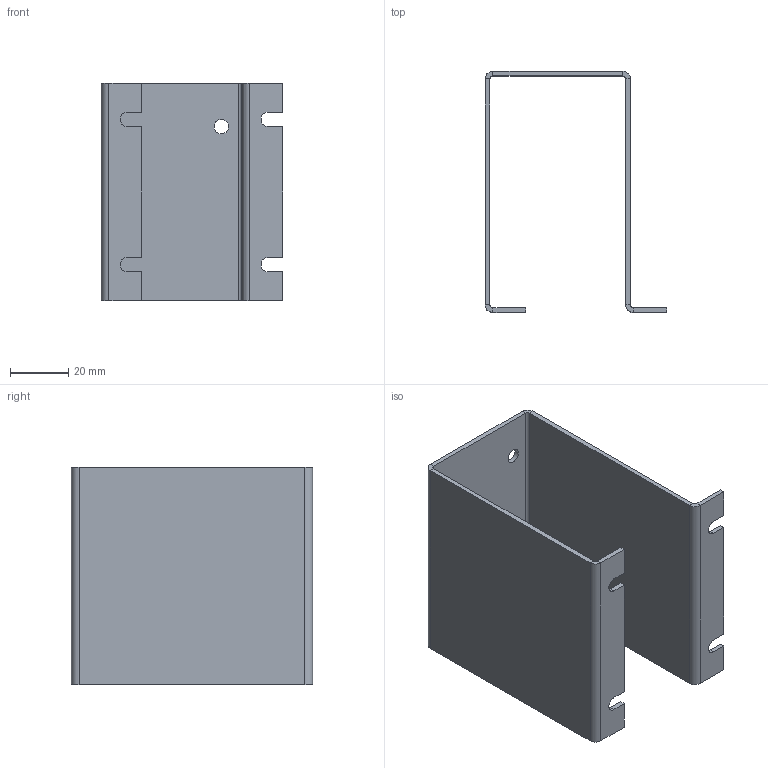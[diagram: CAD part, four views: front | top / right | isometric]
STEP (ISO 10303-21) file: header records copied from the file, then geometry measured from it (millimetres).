
FILE_DESCRIPTION(/* description */ (''),/* implementation_level */ '2;1');
FILE_NAME(/* name */ 'C:\Users\strothej\Documents\ActualDocuments\MicroscopeParts\TwoPhotonSystem\ScanningMechanics\v35\Drawings\Light_Guide_Standoff.stp',/* time_stamp */ '2017-09-23T14:57:07-07:00',/* author */ ('strothej'),/* organization */ (''),/* preprocessor_version */ 'ST-DEVELOPER v16.1',/* originating_system */ 'Autodesk Inventor 2016',/* authorisation */ '');
FILE_SCHEMA (('AUTOMOTIVE_DESIGN { 1 0 10303 214 3 1 1 }'));
Length unit declared in the file: millimetre
Products named in the file (1): Light_Guide_Standoff
Bounding box: 62.5 x 83 x 75 mm (x, y, z)
Volume: 28404.5 mm3; surface area: 35970.4 mm2
Topology: 1 solids, 1 shells, 55 faces, 127 edges, 74 vertices
Faces by surface type: plane 42, cylinder 13
Full cylindrical faces by diameter (mm): 5 x1
Entity records: 1534 total; most frequent: DIRECTION 264, CARTESIAN_POINT 256, ORIENTED_EDGE 252, EDGE_CURVE 126, LINE 100, VECTOR 100, AXIS2_PLACEMENT_3D 82, VERTEX_POINT 74
